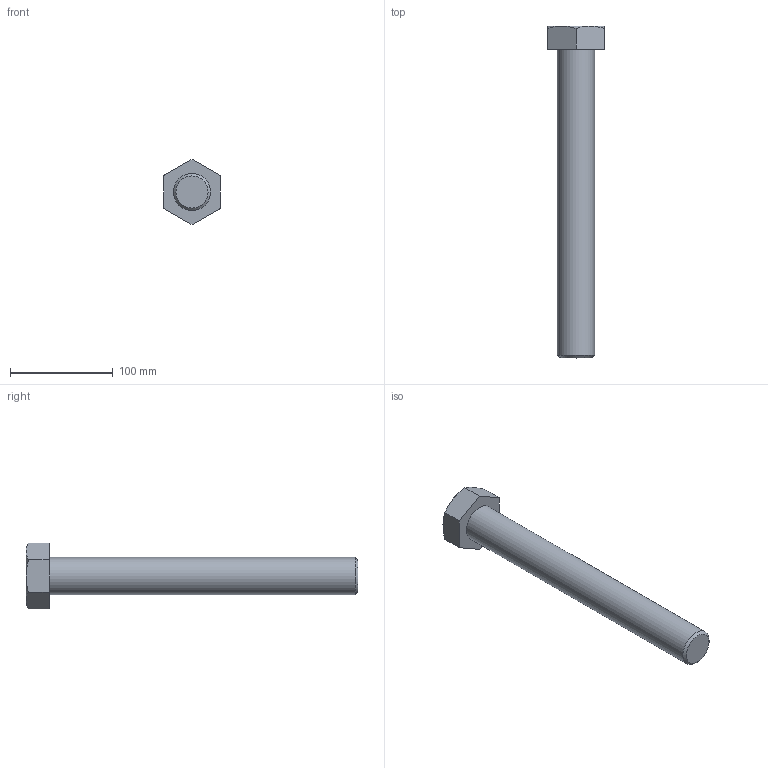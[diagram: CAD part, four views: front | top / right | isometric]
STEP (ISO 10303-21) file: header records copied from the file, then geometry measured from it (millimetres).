
FILE_DESCRIPTION(/* description */ (''),/* implementation_level */ '2;1');
FILE_NAME(/* name */ 'C:\Users\unitec\Documents\Inventor\各種小物\JIS\JIS B 1180 六角ボルト 等級C\hbc36\M36x300.stp',/* time_stamp */ '2015-02-13T14:56:35+09:00',/* author */ ('unitec'),/* organization */ (''),/* preprocessor_version */ 'ST-DEVELOPER v15.2',/* originating_system */ 'Autodesk Inventor 2014',/* authorisation */ '');
FILE_SCHEMA (('AUTOMOTIVE_DESIGN { 1 0 10303 214 3 1 1 }'));
Length unit declared in the file: millimetre
Products named in the file (1): M36x300
Bounding box: 55 x 322.5 x 63.51 mm (x, y, z)
Volume: 363802 mm3; surface area: 43162.6 mm2
Topology: 1 solids, 1 shells, 17 faces, 35 edges, 21 vertices
Faces by surface type: plane 9, cone 7, cylinder 1
Full cylindrical faces by diameter (mm): 36 x1
Entity records: 441 total; most frequent: CARTESIAN_POINT 96, ORIENTED_EDGE 66, DIRECTION 66, EDGE_CURVE 33, AXIS2_PLACEMENT_3D 27, VERTEX_POINT 21, EDGE_LOOP 20, ADVANCED_FACE 17
